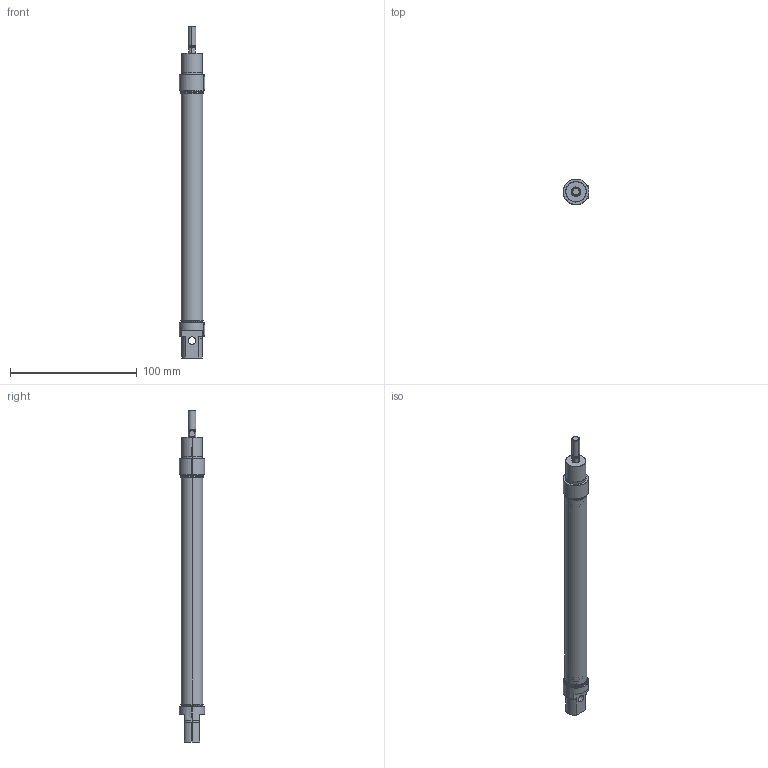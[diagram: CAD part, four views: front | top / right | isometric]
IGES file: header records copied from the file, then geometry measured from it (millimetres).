
Start section: SolidWorks IGES file using analytic representation for surfaces
Global section: file name: D:\ARICA 3D 禽Z軲LER\3D IGES\MA6432\MA6432 16X25\MA6432-16x150CYLINDER.IGS,1; native system: 5HSolidWorks 2013; preprocessor: SolidWorks 2013; author: user; date: 150507.145809; units: millimetre
Bounding box: 20 x 20 x 262 mm (x, y, z)
Surface area: 32341.1 mm2 (no closed solid volume)
Topology: 0 solids, 0 shells, 189 faces, 3654 edges, 3652 vertices
Faces by surface type: revolution 135, bspline 54
